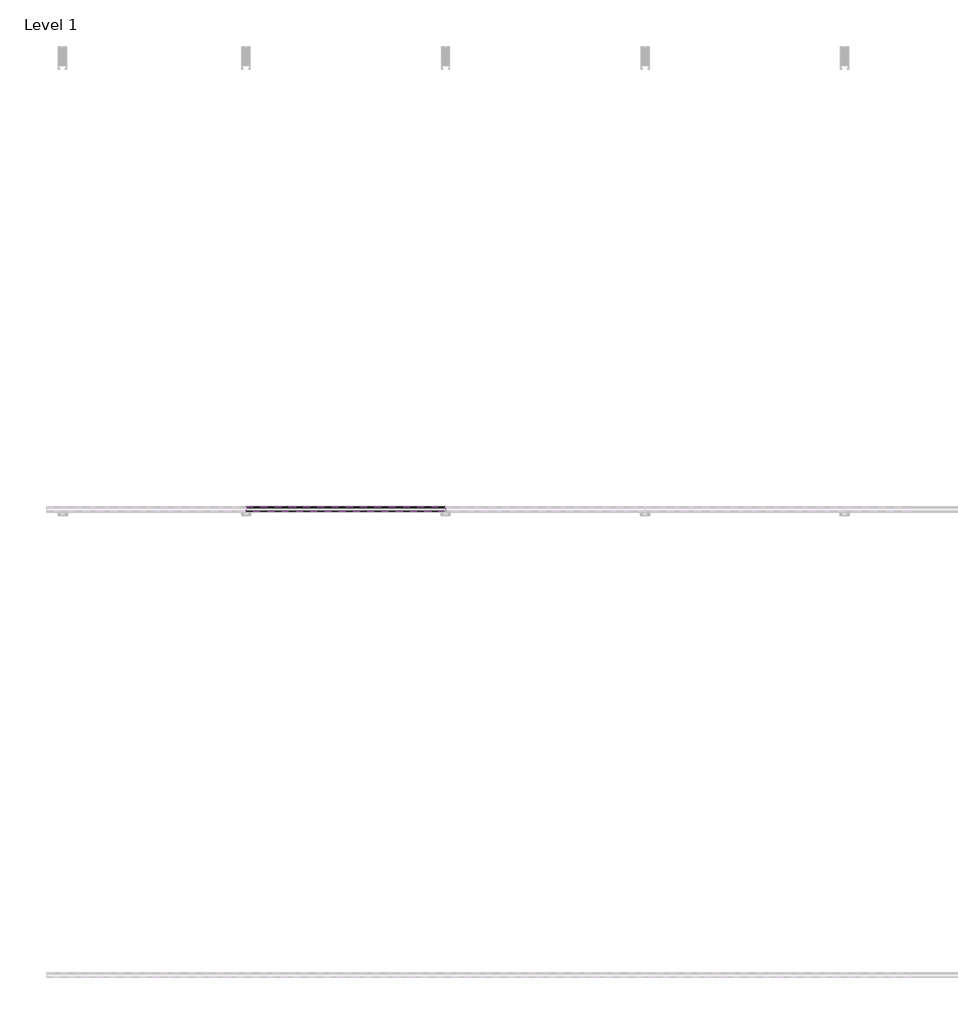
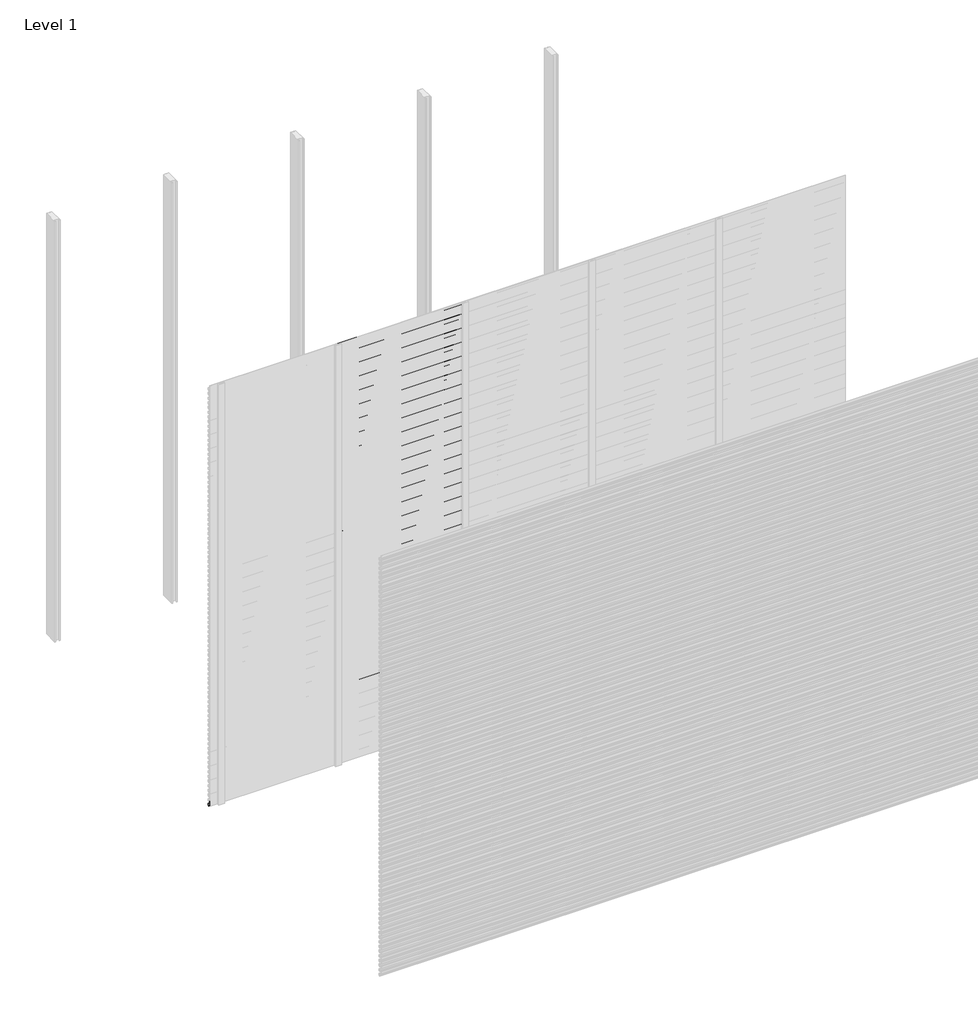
# One storey, part 53 of 96: 77 proxies.
"""IFC4 building model written with IfcOpenShell, lengths in millimetres."""

from ifc_helpers import new_model, si_unit, frame, origin, place, context, project, spatial, polyline, outline, extrude, element, save

model = new_model("IFC4")

# Units and contexts
model_context = context("Model", 3, world=origin())
ifc_project = project(units=[si_unit("LENGTHUNIT", "METRE", prefix="MILLI")], contexts=[model_context])

# Site, building, storey
site = spatial("IfcSite", under=ifc_project)
building = spatial("IfcBuilding", under=site)
storey = spatial("IfcBuildingStorey", under=building, Name="Level 1", Elevation=0.0)

# Proxies
placement = place(None, origin())
element("IfcBuildingElementProxy", 1, Name="Wall Sweeps", at=placement, inside=storey, context=model_context, shape_type="SweptSolid", body=[
    extrude(outline(polyline([(-23977.6, 8.0655033), (-23977.6, -6.2220812), (-23982.4114965, -9.0), (-23982.4114965, -7.7298294), (-23978.85, -5.6735984), (-23978.85, 7.3437382), (-23998.0, 18.4000799), (-23998.0, 33.3), (-23996.75, 33.3), (-23996.75, 19.1217609), (-23977.6, 8.0655033)])), frame((0.0, 0.0, 0.0), z_axis=(1.0, 0.0, 0.0), x_axis=(0.0, 1.0, 0.0)), (0.0, 0.0, 1.0), 857.1428571),
])
element("IfcBuildingElementProxy", 2, Name="Wall Sweeps", at=placement, inside=storey, context=model_context, shape_type="SweptSolid", body=[
    extrude(outline(polyline([(-23977.6, 2971.7655033), (-23977.6, 2957.4779188), (-23982.4114965, 2954.7), (-23982.4114965, 2955.9701706), (-23978.85, 2958.0264016), (-23978.85, 2971.0437382), (-23998.0, 2982.1000799), (-23998.0, 2997.0), (-23996.75, 2997.0), (-23996.75, 2982.8217609), (-23977.6, 2971.7655033)])), frame((857.1428571, 0.0, 0.0), z_axis=(1.0, 0.0, 0.0), x_axis=(0.0, 1.0, 0.0)), (0.0, 0.0, 1.0), 857.1428571),
])
element("IfcBuildingElementProxy", 3, Name="Wall Sweeps", at=placement, inside=storey, context=model_context, shape_type="SweptSolid", body=[
    extrude(outline(polyline([(-23977.6, 2938.4655033), (-23977.6, 2924.1779188), (-23982.4114965, 2921.4), (-23982.4114965, 2922.6701706), (-23978.85, 2924.7264016), (-23978.85, 2937.7437382), (-23998.0, 2948.8000799), (-23998.0, 2963.7), (-23996.75, 2963.7), (-23996.75, 2949.5217609), (-23977.6, 2938.4655033)])), frame((857.1428571, 0.0, 0.0), z_axis=(1.0, 0.0, 0.0), x_axis=(0.0, 1.0, 0.0)), (0.0, 0.0, 1.0), 857.1428571),
])
element("IfcBuildingElementProxy", 4, Name="Wall Sweeps", at=placement, inside=storey, context=model_context, shape_type="SweptSolid", body=[
    extrude(outline(polyline([(-23977.6, 2905.1655033), (-23977.6, 2890.8779188), (-23982.4114965, 2888.1), (-23982.4114965, 2889.3701706), (-23978.85, 2891.4264016), (-23978.85, 2904.4437382), (-23998.0, 2915.5000799), (-23998.0, 2930.4), (-23996.75, 2930.4), (-23996.75, 2916.2217609), (-23977.6, 2905.1655033)])), frame((857.1428571, 0.0, 0.0), z_axis=(1.0, 0.0, 0.0), x_axis=(0.0, 1.0, 0.0)), (0.0, 0.0, 1.0), 857.1428571),
])
element("IfcBuildingElementProxy", 5, Name="Wall Sweeps", at=placement, inside=storey, context=model_context, shape_type="SweptSolid", body=[
    extrude(outline(polyline([(-23977.6, 2871.8655033), (-23977.6, 2857.5779188), (-23982.4114965, 2854.8), (-23982.4114965, 2856.0701706), (-23978.85, 2858.1264016), (-23978.85, 2871.1437382), (-23998.0, 2882.2000799), (-23998.0, 2897.1), (-23996.75, 2897.1), (-23996.75, 2882.9217609), (-23977.6, 2871.8655033)])), frame((857.1428571, 0.0, 0.0), z_axis=(1.0, 0.0, 0.0), x_axis=(0.0, 1.0, 0.0)), (0.0, 0.0, 1.0), 857.1428571),
])
element("IfcBuildingElementProxy", 6, Name="Wall Sweeps", at=placement, inside=storey, context=model_context, shape_type="SweptSolid", body=[
    extrude(outline(polyline([(-23977.6, 2838.5655033), (-23977.6, 2824.2779188), (-23982.4114965, 2821.5), (-23982.4114965, 2822.7701706), (-23978.85, 2824.8264016), (-23978.85, 2837.8437382), (-23998.0, 2848.9000799), (-23998.0, 2863.8), (-23996.75, 2863.8), (-23996.75, 2849.6217609), (-23977.6, 2838.5655033)])), frame((857.1428571, 0.0, 0.0), z_axis=(1.0, 0.0, 0.0), x_axis=(0.0, 1.0, 0.0)), (0.0, 0.0, 1.0), 857.1428571),
])
element("IfcBuildingElementProxy", 7, Name="Wall Sweeps", at=placement, inside=storey, context=model_context, shape_type="SweptSolid", body=[
    extrude(outline(polyline([(-23977.6, 2805.2655033), (-23977.6, 2790.9779188), (-23982.4114965, 2788.2), (-23982.4114965, 2789.4701706), (-23978.85, 2791.5264016), (-23978.85, 2804.5437382), (-23998.0, 2815.6000799), (-23998.0, 2830.5), (-23996.75, 2830.5), (-23996.75, 2816.3217609), (-23977.6, 2805.2655033)])), frame((857.1428571, 0.0, 0.0), z_axis=(1.0, 0.0, 0.0), x_axis=(0.0, 1.0, 0.0)), (0.0, 0.0, 1.0), 857.1428571),
])
element("IfcBuildingElementProxy", 8, Name="Wall Sweeps", at=placement, inside=storey, context=model_context, shape_type="SweptSolid", body=[
    extrude(outline(polyline([(-23977.6, 2771.9655033), (-23977.6, 2757.6779188), (-23982.4114965, 2754.9), (-23982.4114965, 2756.1701706), (-23978.85, 2758.2264016), (-23978.85, 2771.2437382), (-23998.0, 2782.3000799), (-23998.0, 2797.2), (-23996.75, 2797.2), (-23996.75, 2783.0217609), (-23977.6, 2771.9655033)])), frame((857.1428571, 0.0, 0.0), z_axis=(1.0, 0.0, 0.0), x_axis=(0.0, 1.0, 0.0)), (0.0, 0.0, 1.0), 857.1428571),
])
element("IfcBuildingElementProxy", 9, Name="Wall Sweeps", at=placement, inside=storey, context=model_context, shape_type="SweptSolid", body=[
    extrude(outline(polyline([(-23977.6, 2738.6655033), (-23977.6, 2724.3779188), (-23982.4114965, 2721.6), (-23982.4114965, 2722.8701706), (-23978.85, 2724.9264016), (-23978.85, 2737.9437382), (-23998.0, 2749.0000799), (-23998.0, 2763.9), (-23996.75, 2763.9), (-23996.75, 2749.7217609), (-23977.6, 2738.6655033)])), frame((857.1428571, 0.0, 0.0), z_axis=(1.0, 0.0, 0.0), x_axis=(0.0, 1.0, 0.0)), (0.0, 0.0, 1.0), 857.1428571),
])
element("IfcBuildingElementProxy", 10, Name="Wall Sweeps", at=placement, inside=storey, context=model_context, shape_type="SweptSolid", body=[
    extrude(outline(polyline([(-23977.6, 2705.3655033), (-23977.6, 2691.0779188), (-23982.4114965, 2688.3), (-23982.4114965, 2689.5701706), (-23978.85, 2691.6264016), (-23978.85, 2704.6437382), (-23998.0, 2715.7000799), (-23998.0, 2730.6), (-23996.75, 2730.6), (-23996.75, 2716.4217609), (-23977.6, 2705.3655033)])), frame((857.1428571, 0.0, 0.0), z_axis=(1.0, 0.0, 0.0), x_axis=(0.0, 1.0, 0.0)), (0.0, 0.0, 1.0), 857.1428571),
])
element("IfcBuildingElementProxy", 11, Name="Wall Sweeps", at=placement, inside=storey, context=model_context, shape_type="SweptSolid", body=[
    extrude(outline(polyline([(-23977.6, 2672.0655033), (-23977.6, 2657.7779188), (-23982.4114965, 2655.0), (-23982.4114965, 2656.2701706), (-23978.85, 2658.3264016), (-23978.85, 2671.3437382), (-23998.0, 2682.4000799), (-23998.0, 2697.3), (-23996.75, 2697.3), (-23996.75, 2683.1217609), (-23977.6, 2672.0655033)])), frame((857.1428571, 0.0, 0.0), z_axis=(1.0, 0.0, 0.0), x_axis=(0.0, 1.0, 0.0)), (0.0, 0.0, 1.0), 857.1428571),
])
element("IfcBuildingElementProxy", 12, Name="Wall Sweeps", at=placement, inside=storey, context=model_context, shape_type="SweptSolid", body=[
    extrude(outline(polyline([(-23977.6, 2638.7655033), (-23977.6, 2624.4779188), (-23982.4114965, 2621.7), (-23982.4114965, 2622.9701706), (-23978.85, 2625.0264016), (-23978.85, 2638.0437382), (-23998.0, 2649.1000799), (-23998.0, 2664.0), (-23996.75, 2664.0), (-23996.75, 2649.8217609), (-23977.6, 2638.7655033)])), frame((857.1428571, 0.0, 0.0), z_axis=(1.0, 0.0, 0.0), x_axis=(0.0, 1.0, 0.0)), (0.0, 0.0, 1.0), 857.1428571),
])
element("IfcBuildingElementProxy", 13, Name="Wall Sweeps", at=placement, inside=storey, context=model_context, shape_type="SweptSolid", body=[
    extrude(outline(polyline([(-23977.6, 2605.4655033), (-23977.6, 2591.1779188), (-23982.4114965, 2588.4), (-23982.4114965, 2589.6701706), (-23978.85, 2591.7264016), (-23978.85, 2604.7437382), (-23998.0, 2615.8000799), (-23998.0, 2630.7), (-23996.75, 2630.7), (-23996.75, 2616.5217609), (-23977.6, 2605.4655033)])), frame((857.1428571, 0.0, 0.0), z_axis=(1.0, 0.0, 0.0), x_axis=(0.0, 1.0, 0.0)), (0.0, 0.0, 1.0), 857.1428571),
])
element("IfcBuildingElementProxy", 14, Name="Wall Sweeps", at=placement, inside=storey, context=model_context, shape_type="SweptSolid", body=[
    extrude(outline(polyline([(-23977.6, 2572.1655033), (-23977.6, 2557.8779188), (-23982.4114965, 2555.1), (-23982.4114965, 2556.3701706), (-23978.85, 2558.4264016), (-23978.85, 2571.4437382), (-23998.0, 2582.5000799), (-23998.0, 2597.4), (-23996.75, 2597.4), (-23996.75, 2583.2217609), (-23977.6, 2572.1655033)])), frame((857.1428571, 0.0, 0.0), z_axis=(1.0, 0.0, 0.0), x_axis=(0.0, 1.0, 0.0)), (0.0, 0.0, 1.0), 857.1428571),
])
element("IfcBuildingElementProxy", 15, Name="Wall Sweeps", at=placement, inside=storey, context=model_context, shape_type="SweptSolid", body=[
    extrude(outline(polyline([(-23977.6, 2538.8655033), (-23977.6, 2524.5779188), (-23982.4114965, 2521.8), (-23982.4114965, 2523.0701706), (-23978.85, 2525.1264016), (-23978.85, 2538.1437382), (-23998.0, 2549.2000799), (-23998.0, 2564.1), (-23996.75, 2564.1), (-23996.75, 2549.9217609), (-23977.6, 2538.8655033)])), frame((857.1428571, 0.0, 0.0), z_axis=(1.0, 0.0, 0.0), x_axis=(0.0, 1.0, 0.0)), (0.0, 0.0, 1.0), 857.1428571),
])
element("IfcBuildingElementProxy", 16, Name="Wall Sweeps", at=placement, inside=storey, context=model_context, shape_type="SweptSolid", body=[
    extrude(outline(polyline([(-23977.6, 2505.5655033), (-23977.6, 2491.2779188), (-23982.4114965, 2488.5), (-23982.4114965, 2489.7701706), (-23978.85, 2491.8264016), (-23978.85, 2504.8437382), (-23998.0, 2515.9000799), (-23998.0, 2530.8), (-23996.75, 2530.8), (-23996.75, 2516.6217609), (-23977.6, 2505.5655033)])), frame((857.1428571, 0.0, 0.0), z_axis=(1.0, 0.0, 0.0), x_axis=(0.0, 1.0, 0.0)), (0.0, 0.0, 1.0), 857.1428571),
])
element("IfcBuildingElementProxy", 17, Name="Wall Sweeps", at=placement, inside=storey, context=model_context, shape_type="SweptSolid", body=[
    extrude(outline(polyline([(-23977.6, 2472.2655033), (-23977.6, 2457.9779188), (-23982.4114965, 2455.2), (-23982.4114965, 2456.4701706), (-23978.85, 2458.5264016), (-23978.85, 2471.5437382), (-23998.0, 2482.6000799), (-23998.0, 2497.5), (-23996.75, 2497.5), (-23996.75, 2483.3217609), (-23977.6, 2472.2655033)])), frame((857.1428571, 0.0, 0.0), z_axis=(1.0, 0.0, 0.0), x_axis=(0.0, 1.0, 0.0)), (0.0, 0.0, 1.0), 857.1428571),
])
element("IfcBuildingElementProxy", 18, Name="Wall Sweeps", at=placement, inside=storey, context=model_context, shape_type="SweptSolid", body=[
    extrude(outline(polyline([(-23977.6, 2438.9655033), (-23977.6, 2424.6779188), (-23982.4114965, 2421.9), (-23982.4114965, 2423.1701706), (-23978.85, 2425.2264016), (-23978.85, 2438.2437382), (-23998.0, 2449.3000799), (-23998.0, 2464.2), (-23996.75, 2464.2), (-23996.75, 2450.0217609), (-23977.6, 2438.9655033)])), frame((857.1428571, 0.0, 0.0), z_axis=(1.0, 0.0, 0.0), x_axis=(0.0, 1.0, 0.0)), (0.0, 0.0, 1.0), 857.1428571),
])
element("IfcBuildingElementProxy", 19, Name="Wall Sweeps", at=placement, inside=storey, context=model_context, shape_type="SweptSolid", body=[
    extrude(outline(polyline([(-23977.6, 2405.6655033), (-23977.6, 2391.3779188), (-23982.4114965, 2388.6), (-23982.4114965, 2389.8701706), (-23978.85, 2391.9264016), (-23978.85, 2404.9437382), (-23998.0, 2416.0000799), (-23998.0, 2430.9), (-23996.75, 2430.9), (-23996.75, 2416.7217609), (-23977.6, 2405.6655033)])), frame((857.1428571, 0.0, 0.0), z_axis=(1.0, 0.0, 0.0), x_axis=(0.0, 1.0, 0.0)), (0.0, 0.0, 1.0), 857.1428571),
])
element("IfcBuildingElementProxy", 20, Name="Wall Sweeps", at=placement, inside=storey, context=model_context, shape_type="SweptSolid", body=[
    extrude(outline(polyline([(-23977.6, 2372.3655033), (-23977.6, 2358.0779188), (-23982.4114965, 2355.3), (-23982.4114965, 2356.5701706), (-23978.85, 2358.6264016), (-23978.85, 2371.6437382), (-23998.0, 2382.7000799), (-23998.0, 2397.6), (-23996.75, 2397.6), (-23996.75, 2383.4217609), (-23977.6, 2372.3655033)])), frame((857.1428571, 0.0, 0.0), z_axis=(1.0, 0.0, 0.0), x_axis=(0.0, 1.0, 0.0)), (0.0, 0.0, 1.0), 857.1428571),
])
element("IfcBuildingElementProxy", 21, Name="Wall Sweeps", at=placement, inside=storey, context=model_context, shape_type="SweptSolid", body=[
    extrude(outline(polyline([(-23977.6, 2339.0655033), (-23977.6, 2324.7779188), (-23982.4114965, 2322.0), (-23982.4114965, 2323.2701706), (-23978.85, 2325.3264016), (-23978.85, 2338.3437382), (-23998.0, 2349.4000799), (-23998.0, 2364.3), (-23996.75, 2364.3), (-23996.75, 2350.1217609), (-23977.6, 2339.0655033)])), frame((857.1428571, 0.0, 0.0), z_axis=(1.0, 0.0, 0.0), x_axis=(0.0, 1.0, 0.0)), (0.0, 0.0, 1.0), 857.1428571),
])
element("IfcBuildingElementProxy", 22, Name="Wall Sweeps", at=placement, inside=storey, context=model_context, shape_type="SweptSolid", body=[
    extrude(outline(polyline([(-23977.6, 2305.7655033), (-23977.6, 2291.4779188), (-23982.4114965, 2288.7), (-23982.4114965, 2289.9701706), (-23978.85, 2292.0264016), (-23978.85, 2305.0437382), (-23998.0, 2316.1000799), (-23998.0, 2331.0), (-23996.75, 2331.0), (-23996.75, 2316.8217609), (-23977.6, 2305.7655033)])), frame((857.1428571, 0.0, 0.0), z_axis=(1.0, 0.0, 0.0), x_axis=(0.0, 1.0, 0.0)), (0.0, 0.0, 1.0), 857.1428571),
])
element("IfcBuildingElementProxy", 23, Name="Wall Sweeps", at=placement, inside=storey, context=model_context, shape_type="SweptSolid", body=[
    extrude(outline(polyline([(-23977.6, 2272.4655033), (-23977.6, 2258.1779188), (-23982.4114965, 2255.4), (-23982.4114965, 2256.6701706), (-23978.85, 2258.7264016), (-23978.85, 2271.7437382), (-23998.0, 2282.8000799), (-23998.0, 2297.7), (-23996.75, 2297.7), (-23996.75, 2283.5217609), (-23977.6, 2272.4655033)])), frame((857.1428571, 0.0, 0.0), z_axis=(1.0, 0.0, 0.0), x_axis=(0.0, 1.0, 0.0)), (0.0, 0.0, 1.0), 857.1428571),
])
element("IfcBuildingElementProxy", 24, Name="Wall Sweeps", at=placement, inside=storey, context=model_context, shape_type="SweptSolid", body=[
    extrude(outline(polyline([(-23977.6, 2239.1655033), (-23977.6, 2224.8779188), (-23982.4114965, 2222.1), (-23982.4114965, 2223.3701706), (-23978.85, 2225.4264016), (-23978.85, 2238.4437382), (-23998.0, 2249.5000799), (-23998.0, 2264.4), (-23996.75, 2264.4), (-23996.75, 2250.2217609), (-23977.6, 2239.1655033)])), frame((857.1428571, 0.0, 0.0), z_axis=(1.0, 0.0, 0.0), x_axis=(0.0, 1.0, 0.0)), (0.0, 0.0, 1.0), 857.1428571),
])
element("IfcBuildingElementProxy", 25, Name="Wall Sweeps", at=placement, inside=storey, context=model_context, shape_type="SweptSolid", body=[
    extrude(outline(polyline([(-23977.6, 2205.8655033), (-23977.6, 2191.5779188), (-23982.4114965, 2188.8), (-23982.4114965, 2190.0701706), (-23978.85, 2192.1264016), (-23978.85, 2205.1437382), (-23998.0, 2216.2000799), (-23998.0, 2231.1), (-23996.75, 2231.1), (-23996.75, 2216.9217609), (-23977.6, 2205.8655033)])), frame((857.1428571, 0.0, 0.0), z_axis=(1.0, 0.0, 0.0), x_axis=(0.0, 1.0, 0.0)), (0.0, 0.0, 1.0), 857.1428571),
])
element("IfcBuildingElementProxy", 26, Name="Wall Sweeps", at=placement, inside=storey, context=model_context, shape_type="SweptSolid", body=[
    extrude(outline(polyline([(-23977.6, 2172.5655033), (-23977.6, 2158.2779188), (-23982.4114965, 2155.5), (-23982.4114965, 2156.7701706), (-23978.85, 2158.8264016), (-23978.85, 2171.8437382), (-23998.0, 2182.9000799), (-23998.0, 2197.8), (-23996.75, 2197.8), (-23996.75, 2183.6217609), (-23977.6, 2172.5655033)])), frame((857.1428571, 0.0, 0.0), z_axis=(1.0, 0.0, 0.0), x_axis=(0.0, 1.0, 0.0)), (0.0, 0.0, 1.0), 857.1428571),
])
element("IfcBuildingElementProxy", 27, Name="Wall Sweeps", at=placement, inside=storey, context=model_context, shape_type="SweptSolid", body=[
    extrude(outline(polyline([(-23977.6, 2139.2655033), (-23977.6, 2124.9779188), (-23982.4114965, 2122.2), (-23982.4114965, 2123.4701706), (-23978.85, 2125.5264016), (-23978.85, 2138.5437382), (-23998.0, 2149.6000799), (-23998.0, 2164.5), (-23996.75, 2164.5), (-23996.75, 2150.3217609), (-23977.6, 2139.2655033)])), frame((857.1428571, 0.0, 0.0), z_axis=(1.0, 0.0, 0.0), x_axis=(0.0, 1.0, 0.0)), (0.0, 0.0, 1.0), 857.1428571),
])
element("IfcBuildingElementProxy", 28, Name="Wall Sweeps", at=placement, inside=storey, context=model_context, shape_type="SweptSolid", body=[
    extrude(outline(polyline([(-23977.6, 2105.9655033), (-23977.6, 2091.6779188), (-23982.4114965, 2088.9), (-23982.4114965, 2090.1701706), (-23978.85, 2092.2264016), (-23978.85, 2105.2437382), (-23998.0, 2116.3000799), (-23998.0, 2131.2), (-23996.75, 2131.2), (-23996.75, 2117.0217609), (-23977.6, 2105.9655033)])), frame((857.1428571, 0.0, 0.0), z_axis=(1.0, 0.0, 0.0), x_axis=(0.0, 1.0, 0.0)), (0.0, 0.0, 1.0), 857.1428571),
])
element("IfcBuildingElementProxy", 29, Name="Wall Sweeps", at=placement, inside=storey, context=model_context, shape_type="SweptSolid", body=[
    extrude(outline(polyline([(-23977.6, 2072.6655033), (-23977.6, 2058.3779188), (-23982.4114965, 2055.6), (-23982.4114965, 2056.8701706), (-23978.85, 2058.9264016), (-23978.85, 2071.9437382), (-23998.0, 2083.0000799), (-23998.0, 2097.9), (-23996.75, 2097.9), (-23996.75, 2083.7217609), (-23977.6, 2072.6655033)])), frame((857.1428571, 0.0, 0.0), z_axis=(1.0, 0.0, 0.0), x_axis=(0.0, 1.0, 0.0)), (0.0, 0.0, 1.0), 857.1428571),
])
element("IfcBuildingElementProxy", 30, Name="Wall Sweeps", at=placement, inside=storey, context=model_context, shape_type="SweptSolid", body=[
    extrude(outline(polyline([(-23977.6, 2039.3655033), (-23977.6, 2025.0779188), (-23982.4114965, 2022.3), (-23982.4114965, 2023.5701706), (-23978.85, 2025.6264016), (-23978.85, 2038.6437382), (-23998.0, 2049.7000799), (-23998.0, 2064.6), (-23996.75, 2064.6), (-23996.75, 2050.4217609), (-23977.6, 2039.3655033)])), frame((857.1428571, 0.0, 0.0), z_axis=(1.0, 0.0, 0.0), x_axis=(0.0, 1.0, 0.0)), (0.0, 0.0, 1.0), 857.1428571),
])
element("IfcBuildingElementProxy", 31, Name="Wall Sweeps", at=placement, inside=storey, context=model_context, shape_type="SweptSolid", body=[
    extrude(outline(polyline([(-23977.6, 2006.0655033), (-23977.6, 1991.7779188), (-23982.4114965, 1989.0), (-23982.4114965, 1990.2701706), (-23978.85, 1992.3264016), (-23978.85, 2005.3437382), (-23998.0, 2016.4000799), (-23998.0, 2031.3), (-23996.75, 2031.3), (-23996.75, 2017.1217609), (-23977.6, 2006.0655033)])), frame((857.1428571, 0.0, 0.0), z_axis=(1.0, 0.0, 0.0), x_axis=(0.0, 1.0, 0.0)), (0.0, 0.0, 1.0), 857.1428571),
])
element("IfcBuildingElementProxy", 32, Name="Wall Sweeps", at=placement, inside=storey, context=model_context, shape_type="SweptSolid", body=[
    extrude(outline(polyline([(-23977.6, 1972.7655033), (-23977.6, 1958.4779188), (-23982.4114965, 1955.7), (-23982.4114965, 1956.9701706), (-23978.85, 1959.0264016), (-23978.85, 1972.0437382), (-23998.0, 1983.1000799), (-23998.0, 1998.0), (-23996.75, 1998.0), (-23996.75, 1983.8217609), (-23977.6, 1972.7655033)])), frame((857.1428571, 0.0, 0.0), z_axis=(1.0, 0.0, 0.0), x_axis=(0.0, 1.0, 0.0)), (0.0, 0.0, 1.0), 857.1428571),
])
element("IfcBuildingElementProxy", 33, Name="Wall Sweeps", at=placement, inside=storey, context=model_context, shape_type="SweptSolid", body=[
    extrude(outline(polyline([(-23977.6, 1939.4655033), (-23977.6, 1925.1779188), (-23982.4114965, 1922.4), (-23982.4114965, 1923.6701706), (-23978.85, 1925.7264016), (-23978.85, 1938.7437382), (-23998.0, 1949.8000799), (-23998.0, 1964.7), (-23996.75, 1964.7), (-23996.75, 1950.5217609), (-23977.6, 1939.4655033)])), frame((857.1428571, 0.0, 0.0), z_axis=(1.0, 0.0, 0.0), x_axis=(0.0, 1.0, 0.0)), (0.0, 0.0, 1.0), 857.1428571),
])
element("IfcBuildingElementProxy", 34, Name="Wall Sweeps", at=placement, inside=storey, context=model_context, shape_type="SweptSolid", body=[
    extrude(outline(polyline([(-23977.6, 1906.1655033), (-23977.6, 1891.8779188), (-23982.4114965, 1889.1), (-23982.4114965, 1890.3701706), (-23978.85, 1892.4264016), (-23978.85, 1905.4437382), (-23998.0, 1916.5000799), (-23998.0, 1931.4), (-23996.75, 1931.4), (-23996.75, 1917.2217609), (-23977.6, 1906.1655033)])), frame((857.1428571, 0.0, 0.0), z_axis=(1.0, 0.0, 0.0), x_axis=(0.0, 1.0, 0.0)), (0.0, 0.0, 1.0), 857.1428571),
])
element("IfcBuildingElementProxy", 35, Name="Wall Sweeps", at=placement, inside=storey, context=model_context, shape_type="SweptSolid", body=[
    extrude(outline(polyline([(-23977.6, 1872.8655033), (-23977.6, 1858.5779188), (-23982.4114965, 1855.8), (-23982.4114965, 1857.0701706), (-23978.85, 1859.1264016), (-23978.85, 1872.1437382), (-23998.0, 1883.2000799), (-23998.0, 1898.1), (-23996.75, 1898.1), (-23996.75, 1883.9217609), (-23977.6, 1872.8655033)])), frame((857.1428571, 0.0, 0.0), z_axis=(1.0, 0.0, 0.0), x_axis=(0.0, 1.0, 0.0)), (0.0, 0.0, 1.0), 857.1428571),
])
element("IfcBuildingElementProxy", 36, Name="Wall Sweeps", at=placement, inside=storey, context=model_context, shape_type="SweptSolid", body=[
    extrude(outline(polyline([(-23977.6, 1839.5655033), (-23977.6, 1825.2779188), (-23982.4114965, 1822.5), (-23982.4114965, 1823.7701706), (-23978.85, 1825.8264016), (-23978.85, 1838.8437382), (-23998.0, 1849.9000799), (-23998.0, 1864.8), (-23996.75, 1864.8), (-23996.75, 1850.6217609), (-23977.6, 1839.5655033)])), frame((857.1428571, 0.0, 0.0), z_axis=(1.0, 0.0, 0.0), x_axis=(0.0, 1.0, 0.0)), (0.0, 0.0, 1.0), 857.1428571),
])
element("IfcBuildingElementProxy", 37, Name="Wall Sweeps", at=placement, inside=storey, context=model_context, shape_type="SweptSolid", body=[
    extrude(outline(polyline([(-23977.6, 1806.2655033), (-23977.6, 1791.9779188), (-23982.4114965, 1789.2), (-23982.4114965, 1790.4701706), (-23978.85, 1792.5264016), (-23978.85, 1805.5437382), (-23998.0, 1816.6000799), (-23998.0, 1831.5), (-23996.75, 1831.5), (-23996.75, 1817.3217609), (-23977.6, 1806.2655033)])), frame((857.1428571, 0.0, 0.0), z_axis=(1.0, 0.0, 0.0), x_axis=(0.0, 1.0, 0.0)), (0.0, 0.0, 1.0), 857.1428571),
])
element("IfcBuildingElementProxy", 38, Name="Wall Sweeps", at=placement, inside=storey, context=model_context, shape_type="SweptSolid", body=[
    extrude(outline(polyline([(-23977.6, 1772.9655033), (-23977.6, 1758.6779188), (-23982.4114965, 1755.9), (-23982.4114965, 1757.1701706), (-23978.85, 1759.2264016), (-23978.85, 1772.2437382), (-23998.0, 1783.3000799), (-23998.0, 1798.2), (-23996.75, 1798.2), (-23996.75, 1784.0217609), (-23977.6, 1772.9655033)])), frame((857.1428571, 0.0, 0.0), z_axis=(1.0, 0.0, 0.0), x_axis=(0.0, 1.0, 0.0)), (0.0, 0.0, 1.0), 857.1428571),
])
element("IfcBuildingElementProxy", 39, Name="Wall Sweeps", at=placement, inside=storey, context=model_context, shape_type="SweptSolid", body=[
    extrude(outline(polyline([(-23977.6, 1739.6655033), (-23977.6, 1725.3779188), (-23982.4114965, 1722.6), (-23982.4114965, 1723.8701706), (-23978.85, 1725.9264016), (-23978.85, 1738.9437382), (-23998.0, 1750.0000799), (-23998.0, 1764.9), (-23996.75, 1764.9), (-23996.75, 1750.7217609), (-23977.6, 1739.6655033)])), frame((857.1428571, 0.0, 0.0), z_axis=(1.0, 0.0, 0.0), x_axis=(0.0, 1.0, 0.0)), (0.0, 0.0, 1.0), 857.1428571),
])
element("IfcBuildingElementProxy", 40, Name="Wall Sweeps", at=placement, inside=storey, context=model_context, shape_type="SweptSolid", body=[
    extrude(outline(polyline([(-23977.6, 1706.3655033), (-23977.6, 1692.0779188), (-23982.4114965, 1689.3), (-23982.4114965, 1690.5701706), (-23978.85, 1692.6264016), (-23978.85, 1705.6437382), (-23998.0, 1716.7000799), (-23998.0, 1731.6), (-23996.75, 1731.6), (-23996.75, 1717.4217609), (-23977.6, 1706.3655033)])), frame((857.1428571, 0.0, 0.0), z_axis=(1.0, 0.0, 0.0), x_axis=(0.0, 1.0, 0.0)), (0.0, 0.0, 1.0), 857.1428571),
])
element("IfcBuildingElementProxy", 41, Name="Wall Sweeps", at=placement, inside=storey, context=model_context, shape_type="SweptSolid", body=[
    extrude(outline(polyline([(-23977.6, 1673.0655033), (-23977.6, 1658.7779188), (-23982.4114965, 1656.0), (-23982.4114965, 1657.2701706), (-23978.85, 1659.3264016), (-23978.85, 1672.3437382), (-23998.0, 1683.4000799), (-23998.0, 1698.3), (-23996.75, 1698.3), (-23996.75, 1684.1217609), (-23977.6, 1673.0655033)])), frame((857.1428571, 0.0, 0.0), z_axis=(1.0, 0.0, 0.0), x_axis=(0.0, 1.0, 0.0)), (0.0, 0.0, 1.0), 857.1428571),
])
element("IfcBuildingElementProxy", 42, Name="Wall Sweeps", at=placement, inside=storey, context=model_context, shape_type="SweptSolid", body=[
    extrude(outline(polyline([(-23977.6, 1639.7655033), (-23977.6, 1625.4779188), (-23982.4114965, 1622.7), (-23982.4114965, 1623.9701706), (-23978.85, 1626.0264016), (-23978.85, 1639.0437382), (-23998.0, 1650.1000799), (-23998.0, 1665.0), (-23996.75, 1665.0), (-23996.75, 1650.8217609), (-23977.6, 1639.7655033)])), frame((857.1428571, 0.0, 0.0), z_axis=(1.0, 0.0, 0.0), x_axis=(0.0, 1.0, 0.0)), (0.0, 0.0, 1.0), 857.1428571),
])
element("IfcBuildingElementProxy", 43, Name="Wall Sweeps", at=placement, inside=storey, context=model_context, shape_type="SweptSolid", body=[
    extrude(outline(polyline([(-23977.6, 1606.4655033), (-23977.6, 1592.1779188), (-23982.4114965, 1589.4), (-23982.4114965, 1590.6701706), (-23978.85, 1592.7264016), (-23978.85, 1605.7437382), (-23998.0, 1616.8000799), (-23998.0, 1631.7), (-23996.75, 1631.7), (-23996.75, 1617.5217609), (-23977.6, 1606.4655033)])), frame((857.1428571, 0.0, 0.0), z_axis=(1.0, 0.0, 0.0), x_axis=(0.0, 1.0, 0.0)), (0.0, 0.0, 1.0), 857.1428571),
])
element("IfcBuildingElementProxy", 44, Name="Wall Sweeps", at=placement, inside=storey, context=model_context, shape_type="SweptSolid", body=[
    extrude(outline(polyline([(-23977.6, 1573.1655033), (-23977.6, 1558.8779188), (-23982.4114965, 1556.1), (-23982.4114965, 1557.3701706), (-23978.85, 1559.4264016), (-23978.85, 1572.4437382), (-23998.0, 1583.5000799), (-23998.0, 1598.4), (-23996.75, 1598.4), (-23996.75, 1584.2217609), (-23977.6, 1573.1655033)])), frame((857.1428571, 0.0, 0.0), z_axis=(1.0, 0.0, 0.0), x_axis=(0.0, 1.0, 0.0)), (0.0, 0.0, 1.0), 857.1428571),
])
element("IfcBuildingElementProxy", 45, Name="Wall Sweeps", at=placement, inside=storey, context=model_context, shape_type="SweptSolid", body=[
    extrude(outline(polyline([(-23977.6, 1539.8655033), (-23977.6, 1525.5779188), (-23982.4114965, 1522.8), (-23982.4114965, 1524.0701706), (-23978.85, 1526.1264016), (-23978.85, 1539.1437382), (-23998.0, 1550.2000799), (-23998.0, 1565.1), (-23996.75, 1565.1), (-23996.75, 1550.9217609), (-23977.6, 1539.8655033)])), frame((857.1428571, 0.0, 0.0), z_axis=(1.0, 0.0, 0.0), x_axis=(0.0, 1.0, 0.0)), (0.0, 0.0, 1.0), 857.1428571),
])
element("IfcBuildingElementProxy", 46, Name="Wall Sweeps", at=placement, inside=storey, context=model_context, shape_type="SweptSolid", body=[
    extrude(outline(polyline([(-23977.6, 1506.5655033), (-23977.6, 1492.2779188), (-23982.4114965, 1489.5), (-23982.4114965, 1490.7701706), (-23978.85, 1492.8264016), (-23978.85, 1505.8437382), (-23998.0, 1516.9000799), (-23998.0, 1531.8), (-23996.75, 1531.8), (-23996.75, 1517.6217609), (-23977.6, 1506.5655033)])), frame((857.1428571, 0.0, 0.0), z_axis=(1.0, 0.0, 0.0), x_axis=(0.0, 1.0, 0.0)), (0.0, 0.0, 1.0), 857.1428571),
])
element("IfcBuildingElementProxy", 47, Name="Wall Sweeps", at=placement, inside=storey, context=model_context, shape_type="SweptSolid", body=[
    extrude(outline(polyline([(-23977.6, 1473.2655033), (-23977.6, 1458.9779188), (-23982.4114965, 1456.2), (-23982.4114965, 1457.4701706), (-23978.85, 1459.5264016), (-23978.85, 1472.5437382), (-23998.0, 1483.6000799), (-23998.0, 1498.5), (-23996.75, 1498.5), (-23996.75, 1484.3217609), (-23977.6, 1473.2655033)])), frame((857.1428571, 0.0, 0.0), z_axis=(1.0, 0.0, 0.0), x_axis=(0.0, 1.0, 0.0)), (0.0, 0.0, 1.0), 857.1428571),
])
element("IfcBuildingElementProxy", 48, Name="Wall Sweeps", at=placement, inside=storey, context=model_context, shape_type="SweptSolid", body=[
    extrude(outline(polyline([(-23977.6, 1439.9655033), (-23977.6, 1425.6779188), (-23982.4114965, 1422.9), (-23982.4114965, 1424.1701706), (-23978.85, 1426.2264016), (-23978.85, 1439.2437382), (-23998.0, 1450.3000799), (-23998.0, 1465.2), (-23996.75, 1465.2), (-23996.75, 1451.0217609), (-23977.6, 1439.9655033)])), frame((857.1428571, 0.0, 0.0), z_axis=(1.0, 0.0, 0.0), x_axis=(0.0, 1.0, 0.0)), (0.0, 0.0, 1.0), 857.1428571),
])
element("IfcBuildingElementProxy", 49, Name="Wall Sweeps", at=placement, inside=storey, context=model_context, shape_type="SweptSolid", body=[
    extrude(outline(polyline([(-23977.6, 1406.6655033), (-23977.6, 1392.3779188), (-23982.4114965, 1389.6), (-23982.4114965, 1390.8701706), (-23978.85, 1392.9264016), (-23978.85, 1405.9437382), (-23998.0, 1417.0000799), (-23998.0, 1431.9), (-23996.75, 1431.9), (-23996.75, 1417.7217609), (-23977.6, 1406.6655033)])), frame((857.1428571, 0.0, 0.0), z_axis=(1.0, 0.0, 0.0), x_axis=(0.0, 1.0, 0.0)), (0.0, 0.0, 1.0), 857.1428571),
])
element("IfcBuildingElementProxy", 50, Name="Wall Sweeps", at=placement, inside=storey, context=model_context, shape_type="SweptSolid", body=[
    extrude(outline(polyline([(-23977.6, 1373.3655033), (-23977.6, 1359.0779188), (-23982.4114965, 1356.3), (-23982.4114965, 1357.5701706), (-23978.85, 1359.6264016), (-23978.85, 1372.6437382), (-23998.0, 1383.7000799), (-23998.0, 1398.6), (-23996.75, 1398.6), (-23996.75, 1384.4217609), (-23977.6, 1373.3655033)])), frame((857.1428571, 0.0, 0.0), z_axis=(1.0, 0.0, 0.0), x_axis=(0.0, 1.0, 0.0)), (0.0, 0.0, 1.0), 857.1428571),
])
element("IfcBuildingElementProxy", 51, Name="Wall Sweeps", at=placement, inside=storey, context=model_context, shape_type="SweptSolid", body=[
    extrude(outline(polyline([(-23977.6, 1340.0655033), (-23977.6, 1325.7779188), (-23982.4114965, 1323.0), (-23982.4114965, 1324.2701706), (-23978.85, 1326.3264016), (-23978.85, 1339.3437382), (-23998.0, 1350.4000799), (-23998.0, 1365.3), (-23996.75, 1365.3), (-23996.75, 1351.1217609), (-23977.6, 1340.0655033)])), frame((857.1428571, 0.0, 0.0), z_axis=(1.0, 0.0, 0.0), x_axis=(0.0, 1.0, 0.0)), (0.0, 0.0, 1.0), 857.1428571),
])
element("IfcBuildingElementProxy", 52, Name="Wall Sweeps", at=placement, inside=storey, context=model_context, shape_type="SweptSolid", body=[
    extrude(outline(polyline([(-23977.6, 1306.7655033), (-23977.6, 1292.4779188), (-23982.4114965, 1289.7), (-23982.4114965, 1290.9701706), (-23978.85, 1293.0264016), (-23978.85, 1306.0437382), (-23998.0, 1317.1000799), (-23998.0, 1332.0), (-23996.75, 1332.0), (-23996.75, 1317.8217609), (-23977.6, 1306.7655033)])), frame((857.1428571, 0.0, 0.0), z_axis=(1.0, 0.0, 0.0), x_axis=(0.0, 1.0, 0.0)), (0.0, 0.0, 1.0), 857.1428571),
])
element("IfcBuildingElementProxy", 53, Name="Wall Sweeps", at=placement, inside=storey, context=model_context, shape_type="SweptSolid", body=[
    extrude(outline(polyline([(-23977.6, 1273.4655033), (-23977.6, 1259.1779188), (-23982.4114965, 1256.4), (-23982.4114965, 1257.6701706), (-23978.85, 1259.7264016), (-23978.85, 1272.7437382), (-23998.0, 1283.8000799), (-23998.0, 1298.7), (-23996.75, 1298.7), (-23996.75, 1284.5217609), (-23977.6, 1273.4655033)])), frame((857.1428571, 0.0, 0.0), z_axis=(1.0, 0.0, 0.0), x_axis=(0.0, 1.0, 0.0)), (0.0, 0.0, 1.0), 857.1428571),
])
element("IfcBuildingElementProxy", 54, Name="Wall Sweeps", at=placement, inside=storey, context=model_context, shape_type="SweptSolid", body=[
    extrude(outline(polyline([(-23977.6, 1240.1655033), (-23977.6, 1225.8779188), (-23982.4114965, 1223.1), (-23982.4114965, 1224.3701706), (-23978.85, 1226.4264016), (-23978.85, 1239.4437382), (-23998.0, 1250.5000799), (-23998.0, 1265.4), (-23996.75, 1265.4), (-23996.75, 1251.2217609), (-23977.6, 1240.1655033)])), frame((857.1428571, 0.0, 0.0), z_axis=(1.0, 0.0, 0.0), x_axis=(0.0, 1.0, 0.0)), (0.0, 0.0, 1.0), 857.1428571),
])
element("IfcBuildingElementProxy", 55, Name="Wall Sweeps", at=placement, inside=storey, context=model_context, shape_type="SweptSolid", body=[
    extrude(outline(polyline([(-23977.6, 1206.8655033), (-23977.6, 1192.5779188), (-23982.4114965, 1189.8), (-23982.4114965, 1191.0701706), (-23978.85, 1193.1264016), (-23978.85, 1206.1437382), (-23998.0, 1217.2000799), (-23998.0, 1232.1), (-23996.75, 1232.1), (-23996.75, 1217.9217609), (-23977.6, 1206.8655033)])), frame((857.1428571, 0.0, 0.0), z_axis=(1.0, 0.0, 0.0), x_axis=(0.0, 1.0, 0.0)), (0.0, 0.0, 1.0), 857.1428571),
])
element("IfcBuildingElementProxy", 56, Name="Wall Sweeps", at=placement, inside=storey, context=model_context, shape_type="SweptSolid", body=[
    extrude(outline(polyline([(-23977.6, 1173.5655033), (-23977.6, 1159.2779188), (-23982.4114965, 1156.5), (-23982.4114965, 1157.7701706), (-23978.85, 1159.8264016), (-23978.85, 1172.8437382), (-23998.0, 1183.9000799), (-23998.0, 1198.8), (-23996.75, 1198.8), (-23996.75, 1184.6217609), (-23977.6, 1173.5655033)])), frame((857.1428571, 0.0, 0.0), z_axis=(1.0, 0.0, 0.0), x_axis=(0.0, 1.0, 0.0)), (0.0, 0.0, 1.0), 857.1428571),
])
element("IfcBuildingElementProxy", 57, Name="Wall Sweeps", at=placement, inside=storey, context=model_context, shape_type="SweptSolid", body=[
    extrude(outline(polyline([(-23977.6, 1140.2655033), (-23977.6, 1125.9779188), (-23982.4114965, 1123.2), (-23982.4114965, 1124.4701706), (-23978.85, 1126.5264016), (-23978.85, 1139.5437382), (-23998.0, 1150.6000799), (-23998.0, 1165.5), (-23996.75, 1165.5), (-23996.75, 1151.3217609), (-23977.6, 1140.2655033)])), frame((857.1428571, 0.0, 0.0), z_axis=(1.0, 0.0, 0.0), x_axis=(0.0, 1.0, 0.0)), (0.0, 0.0, 1.0), 857.1428571),
])
element("IfcBuildingElementProxy", 58, Name="Wall Sweeps", at=placement, inside=storey, context=model_context, shape_type="SweptSolid", body=[
    extrude(outline(polyline([(-23977.6, 1106.9655033), (-23977.6, 1092.6779188), (-23982.4114965, 1089.9), (-23982.4114965, 1091.1701706), (-23978.85, 1093.2264016), (-23978.85, 1106.2437382), (-23998.0, 1117.3000799), (-23998.0, 1132.2), (-23996.75, 1132.2), (-23996.75, 1118.0217609), (-23977.6, 1106.9655033)])), frame((857.1428571, 0.0, 0.0), z_axis=(1.0, 0.0, 0.0), x_axis=(0.0, 1.0, 0.0)), (0.0, 0.0, 1.0), 857.1428571),
])
element("IfcBuildingElementProxy", 59, Name="Wall Sweeps", at=placement, inside=storey, context=model_context, shape_type="SweptSolid", body=[
    extrude(outline(polyline([(-23977.6, 1073.6655033), (-23977.6, 1059.3779188), (-23982.4114965, 1056.6), (-23982.4114965, 1057.8701706), (-23978.85, 1059.9264016), (-23978.85, 1072.9437382), (-23998.0, 1084.0000799), (-23998.0, 1098.9), (-23996.75, 1098.9), (-23996.75, 1084.7217609), (-23977.6, 1073.6655033)])), frame((857.1428571, 0.0, 0.0), z_axis=(1.0, 0.0, 0.0), x_axis=(0.0, 1.0, 0.0)), (0.0, 0.0, 1.0), 857.1428571),
])
element("IfcBuildingElementProxy", 60, Name="Wall Sweeps", at=placement, inside=storey, context=model_context, shape_type="SweptSolid", body=[
    extrude(outline(polyline([(-23977.6, 1040.3655033), (-23977.6, 1026.0779188), (-23982.4114965, 1023.3), (-23982.4114965, 1024.5701706), (-23978.85, 1026.6264016), (-23978.85, 1039.6437382), (-23998.0, 1050.7000799), (-23998.0, 1065.6), (-23996.75, 1065.6), (-23996.75, 1051.4217609), (-23977.6, 1040.3655033)])), frame((857.1428571, 0.0, 0.0), z_axis=(1.0, 0.0, 0.0), x_axis=(0.0, 1.0, 0.0)), (0.0, 0.0, 1.0), 857.1428571),
])
element("IfcBuildingElementProxy", 61, Name="Wall Sweeps", at=placement, inside=storey, context=model_context, shape_type="SweptSolid", body=[
    extrude(outline(polyline([(-23977.6, 1007.0655033), (-23977.6, 992.7779188), (-23982.4114965, 990.0), (-23982.4114965, 991.2701706), (-23978.85, 993.3264016), (-23978.85, 1006.3437382), (-23998.0, 1017.4000799), (-23998.0, 1032.3), (-23996.75, 1032.3), (-23996.75, 1018.1217609), (-23977.6, 1007.0655033)])), frame((857.1428571, 0.0, 0.0), z_axis=(1.0, 0.0, 0.0), x_axis=(0.0, 1.0, 0.0)), (0.0, 0.0, 1.0), 857.1428571),
])
element("IfcBuildingElementProxy", 62, Name="Wall Sweeps", at=placement, inside=storey, context=model_context, shape_type="SweptSolid", body=[
    extrude(outline(polyline([(-23977.6, 973.7655033), (-23977.6, 959.4779188), (-23982.4114965, 956.7), (-23982.4114965, 957.9701706), (-23978.85, 960.0264016), (-23978.85, 973.0437382), (-23998.0, 984.1000799), (-23998.0, 999.0), (-23996.75, 999.0), (-23996.75, 984.8217609), (-23977.6, 973.7655033)])), frame((857.1428571, 0.0, 0.0), z_axis=(1.0, 0.0, 0.0), x_axis=(0.0, 1.0, 0.0)), (0.0, 0.0, 1.0), 857.1428571),
])
element("IfcBuildingElementProxy", 63, Name="Wall Sweeps", at=placement, inside=storey, context=model_context, shape_type="SweptSolid", body=[
    extrude(outline(polyline([(-23977.6, 940.4655033), (-23977.6, 926.1779188), (-23982.4114965, 923.4), (-23982.4114965, 924.6701706), (-23978.85, 926.7264016), (-23978.85, 939.7437382), (-23998.0, 950.8000799), (-23998.0, 965.7), (-23996.75, 965.7), (-23996.75, 951.5217609), (-23977.6, 940.4655033)])), frame((857.1428571, 0.0, 0.0), z_axis=(1.0, 0.0, 0.0), x_axis=(0.0, 1.0, 0.0)), (0.0, 0.0, 1.0), 857.1428571),
])
element("IfcBuildingElementProxy", 64, Name="Wall Sweeps", at=placement, inside=storey, context=model_context, shape_type="SweptSolid", body=[
    extrude(outline(polyline([(-23977.6, 907.1655033), (-23977.6, 892.8779188), (-23982.4114965, 890.1), (-23982.4114965, 891.3701706), (-23978.85, 893.4264016), (-23978.85, 906.4437382), (-23998.0, 917.5000799), (-23998.0, 932.4), (-23996.75, 932.4), (-23996.75, 918.2217609), (-23977.6, 907.1655033)])), frame((857.1428571, 0.0, 0.0), z_axis=(1.0, 0.0, 0.0), x_axis=(0.0, 1.0, 0.0)), (0.0, 0.0, 1.0), 857.1428571),
])
element("IfcBuildingElementProxy", 65, Name="Wall Sweeps", at=placement, inside=storey, context=model_context, shape_type="SweptSolid", body=[
    extrude(outline(polyline([(-23977.6, 873.8655033), (-23977.6, 859.5779188), (-23982.4114965, 856.8), (-23982.4114965, 858.0701706), (-23978.85, 860.1264016), (-23978.85, 873.1437382), (-23998.0, 884.2000799), (-23998.0, 899.1), (-23996.75, 899.1), (-23996.75, 884.9217609), (-23977.6, 873.8655033)])), frame((857.1428571, 0.0, 0.0), z_axis=(1.0, 0.0, 0.0), x_axis=(0.0, 1.0, 0.0)), (0.0, 0.0, 1.0), 857.1428571),
])
element("IfcBuildingElementProxy", 66, Name="Wall Sweeps", at=placement, inside=storey, context=model_context, shape_type="SweptSolid", body=[
    extrude(outline(polyline([(-23977.6, 840.5655033), (-23977.6, 826.2779188), (-23982.4114965, 823.5), (-23982.4114965, 824.7701706), (-23978.85, 826.8264016), (-23978.85, 839.8437382), (-23998.0, 850.9000799), (-23998.0, 865.8), (-23996.75, 865.8), (-23996.75, 851.6217609), (-23977.6, 840.5655033)])), frame((857.1428571, 0.0, 0.0), z_axis=(1.0, 0.0, 0.0), x_axis=(0.0, 1.0, 0.0)), (0.0, 0.0, 1.0), 857.1428571),
])
element("IfcBuildingElementProxy", 67, Name="Wall Sweeps", at=placement, inside=storey, context=model_context, shape_type="SweptSolid", body=[
    extrude(outline(polyline([(-23977.6, 807.2655033), (-23977.6, 792.9779188), (-23982.4114965, 790.2), (-23982.4114965, 791.4701706), (-23978.85, 793.5264016), (-23978.85, 806.5437382), (-23998.0, 817.6000799), (-23998.0, 832.5), (-23996.75, 832.5), (-23996.75, 818.3217609), (-23977.6, 807.2655033)])), frame((857.1428571, 0.0, 0.0), z_axis=(1.0, 0.0, 0.0), x_axis=(0.0, 1.0, 0.0)), (0.0, 0.0, 1.0), 857.1428571),
])
element("IfcBuildingElementProxy", 68, Name="Wall Sweeps", at=placement, inside=storey, context=model_context, shape_type="SweptSolid", body=[
    extrude(outline(polyline([(-23977.6, 773.9655033), (-23977.6, 759.6779188), (-23982.4114965, 756.9), (-23982.4114965, 758.1701706), (-23978.85, 760.2264016), (-23978.85, 773.2437382), (-23998.0, 784.3000799), (-23998.0, 799.2), (-23996.75, 799.2), (-23996.75, 785.0217609), (-23977.6, 773.9655033)])), frame((857.1428571, 0.0, 0.0), z_axis=(1.0, 0.0, 0.0), x_axis=(0.0, 1.0, 0.0)), (0.0, 0.0, 1.0), 857.1428571),
])
element("IfcBuildingElementProxy", 69, Name="Wall Sweeps", at=placement, inside=storey, context=model_context, shape_type="SweptSolid", body=[
    extrude(outline(polyline([(-23977.6, 740.6655033), (-23977.6, 726.3779188), (-23982.4114965, 723.6), (-23982.4114965, 724.8701706), (-23978.85, 726.9264016), (-23978.85, 739.9437382), (-23998.0, 751.0000799), (-23998.0, 765.9), (-23996.75, 765.9), (-23996.75, 751.7217609), (-23977.6, 740.6655033)])), frame((857.1428571, 0.0, 0.0), z_axis=(1.0, 0.0, 0.0), x_axis=(0.0, 1.0, 0.0)), (0.0, 0.0, 1.0), 857.1428571),
])
element("IfcBuildingElementProxy", 70, Name="Wall Sweeps", at=placement, inside=storey, context=model_context, shape_type="SweptSolid", body=[
    extrude(outline(polyline([(-23977.6, 707.3655033), (-23977.6, 693.0779188), (-23982.4114965, 690.3), (-23982.4114965, 691.5701706), (-23978.85, 693.6264016), (-23978.85, 706.6437382), (-23998.0, 717.7000799), (-23998.0, 732.6), (-23996.75, 732.6), (-23996.75, 718.4217609), (-23977.6, 707.3655033)])), frame((857.1428571, 0.0, 0.0), z_axis=(1.0, 0.0, 0.0), x_axis=(0.0, 1.0, 0.0)), (0.0, 0.0, 1.0), 857.1428571),
])
element("IfcBuildingElementProxy", 71, Name="Wall Sweeps", at=placement, inside=storey, context=model_context, shape_type="SweptSolid", body=[
    extrude(outline(polyline([(-23977.6, 674.0655033), (-23977.6, 659.7779188), (-23982.4114965, 657.0), (-23982.4114965, 658.2701706), (-23978.85, 660.3264016), (-23978.85, 673.3437382), (-23998.0, 684.4000799), (-23998.0, 699.3), (-23996.75, 699.3), (-23996.75, 685.1217609), (-23977.6, 674.0655033)])), frame((857.1428571, 0.0, 0.0), z_axis=(1.0, 0.0, 0.0), x_axis=(0.0, 1.0, 0.0)), (0.0, 0.0, 1.0), 857.1428571),
])
element("IfcBuildingElementProxy", 72, Name="Wall Sweeps", at=placement, inside=storey, context=model_context, shape_type="SweptSolid", body=[
    extrude(outline(polyline([(-23977.6, 640.7655033), (-23977.6, 626.4779188), (-23982.4114965, 623.7), (-23982.4114965, 624.9701706), (-23978.85, 627.0264016), (-23978.85, 640.0437382), (-23998.0, 651.1000799), (-23998.0, 666.0), (-23996.75, 666.0), (-23996.75, 651.8217609), (-23977.6, 640.7655033)])), frame((857.1428571, 0.0, 0.0), z_axis=(1.0, 0.0, 0.0), x_axis=(0.0, 1.0, 0.0)), (0.0, 0.0, 1.0), 857.1428571),
])
element("IfcBuildingElementProxy", 73, Name="Wall Sweeps", at=placement, inside=storey, context=model_context, shape_type="SweptSolid", body=[
    extrude(outline(polyline([(-23977.6, 607.4655033), (-23977.6, 593.1779188), (-23982.4114965, 590.4), (-23982.4114965, 591.6701706), (-23978.85, 593.7264016), (-23978.85, 606.7437382), (-23998.0, 617.8000799), (-23998.0, 632.7), (-23996.75, 632.7), (-23996.75, 618.5217609), (-23977.6, 607.4655033)])), frame((857.1428571, 0.0, 0.0), z_axis=(1.0, 0.0, 0.0), x_axis=(0.0, 1.0, 0.0)), (0.0, 0.0, 1.0), 857.1428571),
])
element("IfcBuildingElementProxy", 74, Name="Wall Sweeps", at=placement, inside=storey, context=model_context, shape_type="SweptSolid", body=[
    extrude(outline(polyline([(-23977.6, 574.1655033), (-23977.6, 559.8779188), (-23982.4114965, 557.1), (-23982.4114965, 558.3701706), (-23978.85, 560.4264016), (-23978.85, 573.4437382), (-23998.0, 584.5000799), (-23998.0, 599.4), (-23996.75, 599.4), (-23996.75, 585.2217609), (-23977.6, 574.1655033)])), frame((857.1428571, 0.0, 0.0), z_axis=(1.0, 0.0, 0.0), x_axis=(0.0, 1.0, 0.0)), (0.0, 0.0, 1.0), 857.1428571),
])
element("IfcBuildingElementProxy", 75, Name="Wall Sweeps", at=placement, inside=storey, context=model_context, shape_type="SweptSolid", body=[
    extrude(outline(polyline([(-23977.6, 540.8655033), (-23977.6, 526.5779188), (-23982.4114965, 523.8), (-23982.4114965, 525.0701706), (-23978.85, 527.1264016), (-23978.85, 540.1437382), (-23998.0, 551.2000799), (-23998.0, 566.1), (-23996.75, 566.1), (-23996.75, 551.9217609), (-23977.6, 540.8655033)])), frame((857.1428571, 0.0, 0.0), z_axis=(1.0, 0.0, 0.0), x_axis=(0.0, 1.0, 0.0)), (0.0, 0.0, 1.0), 857.1428571),
])
element("IfcBuildingElementProxy", 76, Name="Wall Sweeps", at=placement, inside=storey, context=model_context, shape_type="SweptSolid", body=[
    extrude(outline(polyline([(-23977.6, 507.5655033), (-23977.6, 493.2779188), (-23982.4114965, 490.5), (-23982.4114965, 491.7701706), (-23978.85, 493.8264016), (-23978.85, 506.8437382), (-23998.0, 517.9000799), (-23998.0, 532.8), (-23996.75, 532.8), (-23996.75, 518.6217609), (-23977.6, 507.5655033)])), frame((857.1428571, 0.0, 0.0), z_axis=(1.0, 0.0, 0.0), x_axis=(0.0, 1.0, 0.0)), (0.0, 0.0, 1.0), 857.1428571),
])
element("IfcBuildingElementProxy", 77, Name="Wall Sweeps", at=placement, inside=storey, context=model_context, shape_type="SweptSolid", body=[
    extrude(outline(polyline([(-23977.6, 474.2655033), (-23977.6, 459.9779188), (-23982.4114965, 457.2), (-23982.4114965, 458.4701706), (-23978.85, 460.5264016), (-23978.85, 473.5437382), (-23998.0, 484.6000799), (-23998.0, 499.5), (-23996.75, 499.5), (-23996.75, 485.3217609), (-23977.6, 474.2655033)])), frame((857.1428571, 0.0, 0.0), z_axis=(1.0, 0.0, 0.0), x_axis=(0.0, 1.0, 0.0)), (0.0, 0.0, 1.0), 857.1428571),
])

save(model, "model.ifc")
